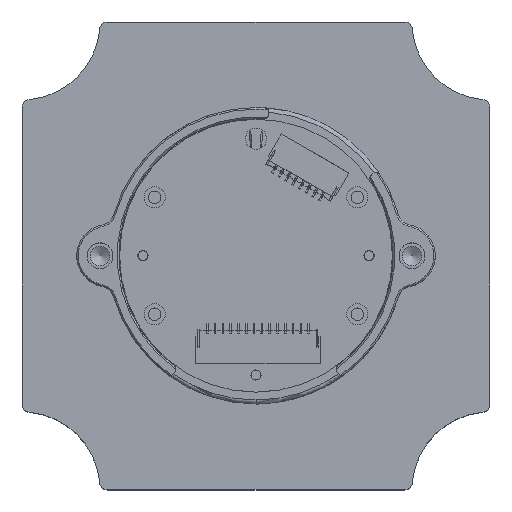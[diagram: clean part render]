
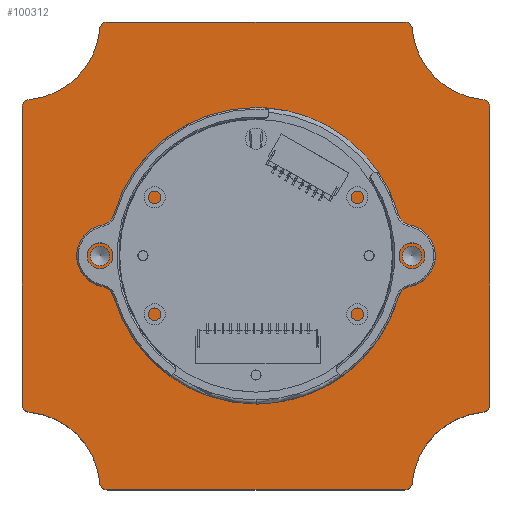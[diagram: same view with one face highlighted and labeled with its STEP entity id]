
A CAD part, top view. The second image highlights one B-rep face of the part: STEP entity #100312.
In plain terms, the highlighted planar face has unit normal (0, 0, 1).
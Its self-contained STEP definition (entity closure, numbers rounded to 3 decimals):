
#100056=CARTESIAN_POINT('',(20.041,-29.091,75.));
#100057=VERTEX_POINT('',#100056);
#100075=CARTESIAN_POINT('',(29.091,-20.041,75.));
#100076=VERTEX_POINT('',#100075);
#100083=CARTESIAN_POINT('',(30.,-30.,75.));
#100084=DIRECTION('',(-0.091,0.996,0.));
#100085=DIRECTION('',(0.,0.,1.));
#100086=AXIS2_PLACEMENT_3D('',#100083,#100085,#100084);
#100087=CIRCLE('',#100086,10.);
#100088=EDGE_CURVE('',#100076,#100057,#100087,.T.);
#100098=CARTESIAN_POINT('',(30.,-19.046,75.));
#100099=VERTEX_POINT('',#100098);
#100116=CARTESIAN_POINT('',(30.,19.046,75.));
#100117=VERTEX_POINT('',#100116);
#100124=CARTESIAN_POINT('',(30.,19.046,75.));
#100125=DIRECTION('',(0.,-1.,0.));
#100126=VECTOR('',#100125,38.091);
#100127=LINE('',#100124,#100126);
#100128=EDGE_CURVE('',#100117,#100099,#100127,.T.);
#100133=CARTESIAN_POINT('',(0.,0.,75.));
#100134=DIRECTION('',(0.,1.,0.));
#100135=DIRECTION('',(0.,-0.,1.));
#100136=AXIS2_PLACEMENT_3D('',#100133,#100135,#100134);
#100137=PLANE('',#100136);
#100138=CARTESIAN_POINT('',(-30.,19.046,75.));
#100139=VERTEX_POINT('',#100138);
#100140=CARTESIAN_POINT('',(-30.,-19.046,75.));
#100141=VERTEX_POINT('',#100140);
#100142=CARTESIAN_POINT('',(-30.,19.046,75.));
#100143=DIRECTION('',(0.,-1.,0.));
#100144=VECTOR('',#100143,38.091);
#100145=LINE('',#100142,#100144);
#100146=EDGE_CURVE('',#100139,#100141,#100145,.T.);
#100147=ORIENTED_EDGE('',*,*,#100146,.T.);
#100148=CARTESIAN_POINT('',(-29.091,-20.041,75.));
#100149=VERTEX_POINT('',#100148);
#100150=CARTESIAN_POINT('',(-29.,-19.046,75.));
#100151=DIRECTION('',(-1.,0.,0.));
#100152=DIRECTION('',(0.,0.,1.));
#100153=AXIS2_PLACEMENT_3D('',#100150,#100152,#100151);
#100154=CIRCLE('',#100153,1.);
#100155=EDGE_CURVE('',#100141,#100149,#100154,.T.);
#100156=ORIENTED_EDGE('',*,*,#100155,.T.);
#100157=CARTESIAN_POINT('',(-20.041,-29.091,75.));
#100158=VERTEX_POINT('',#100157);
#100159=CARTESIAN_POINT('',(-30.,-30.,75.));
#100160=DIRECTION('',(0.091,0.996,0.));
#100161=DIRECTION('',(0.,-0.,-1.));
#100162=AXIS2_PLACEMENT_3D('',#100159,#100161,#100160);
#100163=CIRCLE('',#100162,10.);
#100164=EDGE_CURVE('',#100149,#100158,#100163,.T.);
#100165=ORIENTED_EDGE('',*,*,#100164,.T.);
#100166=CARTESIAN_POINT('',(-19.046,-30.,75.));
#100167=VERTEX_POINT('',#100166);
#100168=CARTESIAN_POINT('',(-19.046,-29.,75.));
#100169=DIRECTION('',(-0.996,-0.091,0.));
#100170=DIRECTION('',(0.,0.,1.));
#100171=AXIS2_PLACEMENT_3D('',#100168,#100170,#100169);
#100172=CIRCLE('',#100171,1.);
#100173=EDGE_CURVE('',#100158,#100167,#100172,.T.);
#100174=ORIENTED_EDGE('',*,*,#100173,.T.);
#100175=CARTESIAN_POINT('',(19.046,-30.,75.));
#100176=VERTEX_POINT('',#100175);
#100177=CARTESIAN_POINT('',(-19.046,-30.,75.));
#100178=DIRECTION('',(1.,0.,0.));
#100179=VECTOR('',#100178,38.091);
#100180=LINE('',#100177,#100179);
#100181=EDGE_CURVE('',#100167,#100176,#100180,.T.);
#100182=ORIENTED_EDGE('',*,*,#100181,.T.);
#100183=CARTESIAN_POINT('',(19.046,-29.,75.));
#100184=DIRECTION('',(0.,-1.,0.));
#100185=DIRECTION('',(0.,0.,1.));
#100186=AXIS2_PLACEMENT_3D('',#100183,#100185,#100184);
#100187=CIRCLE('',#100186,1.);
#100188=EDGE_CURVE('',#100176,#100057,#100187,.T.);
#100189=ORIENTED_EDGE('',*,*,#100188,.T.);
#100190=ORIENTED_EDGE('',*,*,#100088,.F.);
#100191=CARTESIAN_POINT('',(29.,-19.046,75.));
#100192=DIRECTION('',(0.091,-0.996,0.));
#100193=DIRECTION('',(0.,0.,1.));
#100194=AXIS2_PLACEMENT_3D('',#100191,#100193,#100192);
#100195=CIRCLE('',#100194,1.);
#100196=EDGE_CURVE('',#100076,#100099,#100195,.T.);
#100197=ORIENTED_EDGE('',*,*,#100196,.T.);
#100198=ORIENTED_EDGE('',*,*,#100128,.F.);
#100199=CARTESIAN_POINT('',(29.091,20.041,75.));
#100200=VERTEX_POINT('',#100199);
#100201=CARTESIAN_POINT('',(29.,19.046,75.));
#100202=DIRECTION('',(1.,0.,0.));
#100203=DIRECTION('',(0.,0.,1.));
#100204=AXIS2_PLACEMENT_3D('',#100201,#100203,#100202);
#100205=CIRCLE('',#100204,1.);
#100206=EDGE_CURVE('',#100117,#100200,#100205,.T.);
#100207=ORIENTED_EDGE('',*,*,#100206,.T.);
#100208=CARTESIAN_POINT('',(20.041,29.091,75.));
#100209=VERTEX_POINT('',#100208);
#100210=CARTESIAN_POINT('',(30.,30.,75.));
#100211=DIRECTION('',(-0.091,-0.996,0.));
#100212=DIRECTION('',(0.,0.,-1.));
#100213=AXIS2_PLACEMENT_3D('',#100210,#100212,#100211);
#100214=CIRCLE('',#100213,10.);
#100215=EDGE_CURVE('',#100200,#100209,#100214,.T.);
#100216=ORIENTED_EDGE('',*,*,#100215,.T.);
#100217=CARTESIAN_POINT('',(19.046,30.,75.));
#100218=VERTEX_POINT('',#100217);
#100219=CARTESIAN_POINT('',(19.046,29.,75.));
#100220=DIRECTION('',(0.996,0.091,0.));
#100221=DIRECTION('',(0.,0.,1.));
#100222=AXIS2_PLACEMENT_3D('',#100219,#100221,#100220);
#100223=CIRCLE('',#100222,1.);
#100224=EDGE_CURVE('',#100209,#100218,#100223,.T.);
#100225=ORIENTED_EDGE('',*,*,#100224,.T.);
#100226=CARTESIAN_POINT('',(-19.046,30.,75.));
#100227=VERTEX_POINT('',#100226);
#100228=CARTESIAN_POINT('',(19.046,30.,75.));
#100229=DIRECTION('',(-1.,0.,0.));
#100230=VECTOR('',#100229,38.091);
#100231=LINE('',#100228,#100230);
#100232=EDGE_CURVE('',#100218,#100227,#100231,.T.);
#100233=ORIENTED_EDGE('',*,*,#100232,.T.);
#100234=CARTESIAN_POINT('',(-20.041,29.091,75.));
#100235=VERTEX_POINT('',#100234);
#100236=CARTESIAN_POINT('',(-19.046,29.,75.));
#100237=DIRECTION('',(0.,1.,0.));
#100238=DIRECTION('',(0.,0.,1.));
#100239=AXIS2_PLACEMENT_3D('',#100236,#100238,#100237);
#100240=CIRCLE('',#100239,1.);
#100241=EDGE_CURVE('',#100227,#100235,#100240,.T.);
#100242=ORIENTED_EDGE('',*,*,#100241,.T.);
#100243=CARTESIAN_POINT('',(-29.091,20.041,75.));
#100244=VERTEX_POINT('',#100243);
#100245=CARTESIAN_POINT('',(-30.,30.,75.));
#100246=DIRECTION('',(0.996,-0.091,0.));
#100247=DIRECTION('',(0.,0.,-1.));
#100248=AXIS2_PLACEMENT_3D('',#100245,#100247,#100246);
#100249=CIRCLE('',#100248,10.);
#100250=EDGE_CURVE('',#100235,#100244,#100249,.T.);
#100251=ORIENTED_EDGE('',*,*,#100250,.T.);
#100252=CARTESIAN_POINT('',(-29.,19.046,75.));
#100253=DIRECTION('',(-0.091,0.996,0.));
#100254=DIRECTION('',(0.,0.,1.));
#100255=AXIS2_PLACEMENT_3D('',#100252,#100254,#100253);
#100256=CIRCLE('',#100255,1.);
#100257=EDGE_CURVE('',#100244,#100139,#100256,.T.);
#100258=ORIENTED_EDGE('',*,*,#100257,.T.);
#100259=EDGE_LOOP('',(#100147,#100156,#100165,#100174,#100182,#100189,#100190,#100197,#100198,#100207,#100216,#100225,#100233,#100242,#100251,#100258));
#100260=FACE_OUTER_BOUND('',#100259,.T.);
#100261=CARTESIAN_POINT('',(21.25,0.,75.));
#100262=VERTEX_POINT('',#100261);
#100263=CARTESIAN_POINT('',(18.75,0.,75.));
#100264=VERTEX_POINT('',#100263);
#100265=CARTESIAN_POINT('',(20.,0.,75.));
#100266=DIRECTION('',(1.,0.,0.));
#100267=DIRECTION('',(0.,0.,-1.));
#100268=AXIS2_PLACEMENT_3D('',#100265,#100267,#100266);
#100269=CIRCLE('',#100268,1.25);
#100270=EDGE_CURVE('',#100262,#100264,#100269,.T.);
#100271=ORIENTED_EDGE('',*,*,#100270,.T.);
#100272=CARTESIAN_POINT('',(20.,0.,75.));
#100273=DIRECTION('',(-1.,0.,0.));
#100274=DIRECTION('',(0.,0.,-1.));
#100275=AXIS2_PLACEMENT_3D('',#100272,#100274,#100273);
#100276=CIRCLE('',#100275,1.25);
#100277=EDGE_CURVE('',#100264,#100262,#100276,.T.);
#100278=ORIENTED_EDGE('',*,*,#100277,.T.);
#100279=EDGE_LOOP('',(#100271,#100278));
#100280=FACE_BOUND('',#100279,.T.);
#100281=CARTESIAN_POINT('',(-18.75,0.,75.));
#100282=VERTEX_POINT('',#100281);
#100283=CARTESIAN_POINT('',(-21.25,0.,75.));
#100284=VERTEX_POINT('',#100283);
#100285=CARTESIAN_POINT('',(-20.,0.,75.));
#100286=DIRECTION('',(1.,0.,0.));
#100287=DIRECTION('',(0.,0.,-1.));
#100288=AXIS2_PLACEMENT_3D('',#100285,#100287,#100286);
#100289=CIRCLE('',#100288,1.25);
#100290=EDGE_CURVE('',#100282,#100284,#100289,.T.);
#100291=ORIENTED_EDGE('',*,*,#100290,.T.);
#100292=CARTESIAN_POINT('',(-20.,0.,75.));
#100293=DIRECTION('',(-1.,0.,0.));
#100294=DIRECTION('',(0.,0.,-1.));
#100295=AXIS2_PLACEMENT_3D('',#100292,#100294,#100293);
#100296=CIRCLE('',#100295,1.25);
#100297=EDGE_CURVE('',#100284,#100282,#100296,.T.);
#100298=ORIENTED_EDGE('',*,*,#100297,.T.);
#100299=EDGE_LOOP('',(#100291,#100298));
#100300=FACE_BOUND('',#100299,.T.);
#100301=CARTESIAN_POINT('',(7.5,0.,75.));
#100302=VERTEX_POINT('',#100301);
#100303=CARTESIAN_POINT('',(0.,0.,75.));
#100304=DIRECTION('',(1.,0.,-0.));
#100305=DIRECTION('',(0.,0.,-1.));
#100306=AXIS2_PLACEMENT_3D('',#100303,#100305,#100304);
#100307=CIRCLE('',#100306,7.5);
#100308=EDGE_CURVE('',#100302,#100302,#100307,.T.);
#100309=ORIENTED_EDGE('',*,*,#100308,.T.);
#100310=EDGE_LOOP('',(#100309));
#100311=FACE_BOUND('',#100310,.T.);
#100312=ADVANCED_FACE('',(#100260,#100280,#100300,#100311),#100137,.T.);
